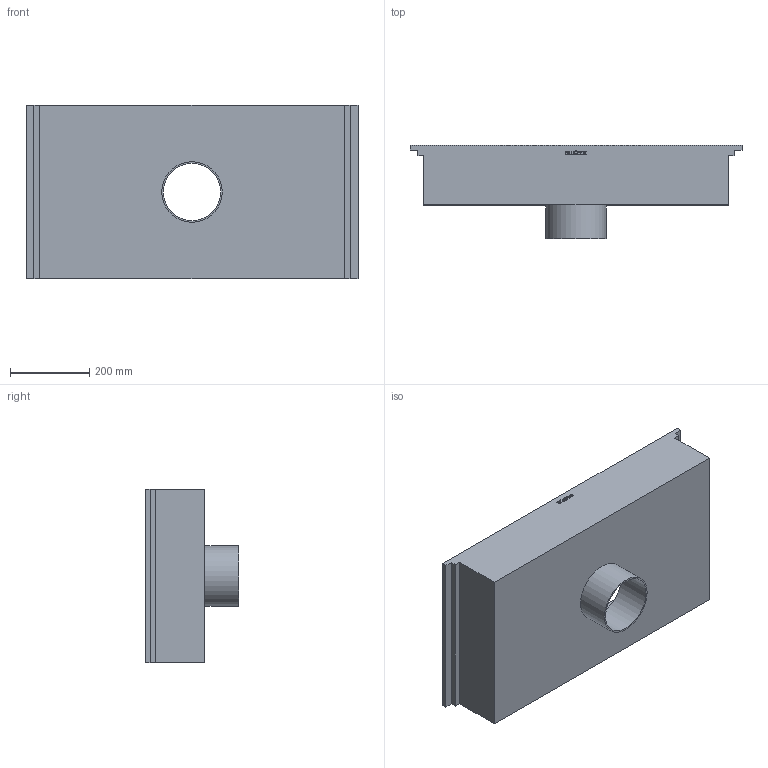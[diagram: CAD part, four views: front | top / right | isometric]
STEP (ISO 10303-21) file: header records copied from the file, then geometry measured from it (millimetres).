
FILE_DESCRIPTION((''),'2;1');
FILE_NAME('I:\WATTS\3D_CAD\3D_CAD_Models\Blucher_Drains\BKC_KitchenChannels\BKC-200\WebsiteFiles\3D\STEP\BKC-206-6.stp','2009-11-30T08:52:39',('menesek'),(''),'Autodesk Inventor 2010','Autodesk Inventor 2010','');
FILE_SCHEMA(('AUTOMOTIVE_DESIGN { 1 0 10303 214 1 1 1 1 }'));
Length unit declared in the file: inch
Products named in the file (1): BKC-206-6
Bounding box: 837 x 235 x 437 mm (x, y, z)
Volume: 6665050.4 mm3; surface area: 1482524.8 mm2
Topology: 1 solids, 1 shells, 142 faces, 385 edges, 257 vertices
Faces by surface type: plane 95, bspline 45, cylinder 2
Full cylindrical faces by diameter (mm): 144.4 x1, 152.4 x1
Entity records: 4799 total; most frequent: CARTESIAN_POINT 1501, ORIENTED_EDGE 764, DIRECTION 492, EDGE_CURVE 382, VECTOR 288, LINE 288, VERTEX_POINT 256, EDGE_LOOP 158
